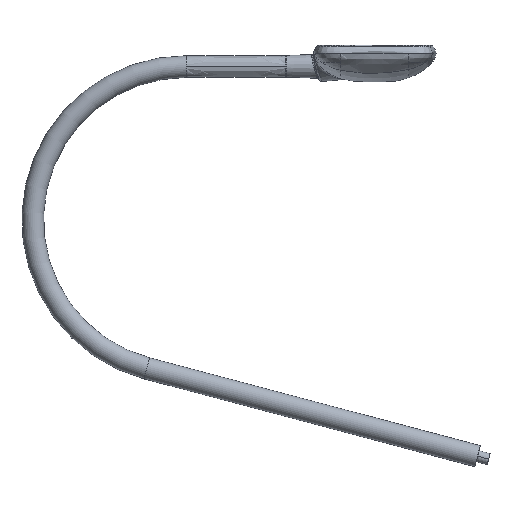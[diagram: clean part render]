
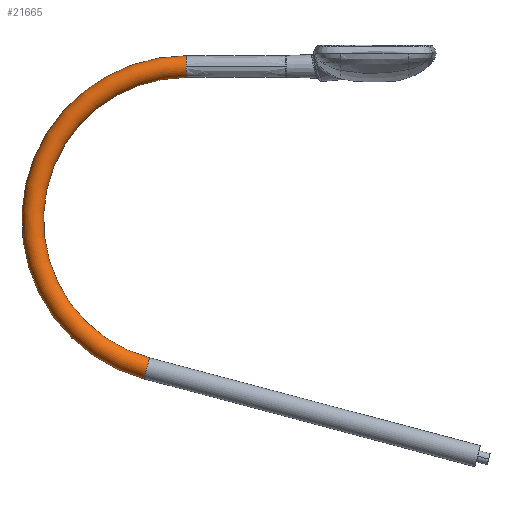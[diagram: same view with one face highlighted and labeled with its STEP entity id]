
A CAD part, left-side view. The second image highlights one B-rep face of the part: STEP entity #21665.
In plain terms, the highlighted toroidal (fillet/blend) face has major radius 134.5 mm and minor radius 9.5 mm.
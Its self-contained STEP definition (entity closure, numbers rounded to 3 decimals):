
#271 = AXIS2_PLACEMENT_3D ( 'NONE', #14982, #14985, #14987 ) ;
#371 = AXIS2_PLACEMENT_3D ( 'NONE', #15060, #15082, #15084 ) ;
#405 = AXIS2_PLACEMENT_3D ( 'NONE', #15008, #15012, #15014 ) ;
#446 = AXIS2_PLACEMENT_3D ( 'NONE', #15369, #15372, #15374 ) ;
#450 = AXIS2_PLACEMENT_3D ( 'NONE', #15010, #15034, #15036 ) ;
#476 = VERTEX_POINT ( 'NONE', #11382 ) ;
#484 = VERTEX_POINT ( 'NONE', #11368 ) ;
#488 = VERTEX_POINT ( 'NONE', #11372 ) ;
#5013 = CIRCLE ( 'NONE', #271, 125. ) ;
#5022 = CIRCLE ( 'NONE', #450, 9.5 ) ;
#5609 = CIRCLE ( 'NONE', #405, 144. ) ;
#6060 = CIRCLE ( 'NONE', #446, 9.5 ) ;
#6094 = CIRCLE ( 'NONE', #371, 9.5 ) ;
#11058 = VERTEX_POINT ( 'NONE', #11514 ) ;
#11368 = CARTESIAN_POINT ( 'NONE',  ( 264.49, 334.537, 9.5 ) ) ;
#11372 = CARTESIAN_POINT ( 'NONE',  ( 255.309, 332.098, 0. ) ) ;
#11382 = CARTESIAN_POINT ( 'NONE',  ( 273.672, 336.977, 0. ) ) ;
#11514 = CARTESIAN_POINT ( 'NONE',  ( 9.5, 300., 0. ) ) ;
#14982 = CARTESIAN_POINT ( 'NONE',  ( 134.5, 300., 0. ) ) ;
#14985 = DIRECTION ( 'NONE',  ( 0., 0., -1. ) ) ;
#14987 = DIRECTION ( 'NONE',  ( -1., 0., 0. ) ) ;
#15008 = CARTESIAN_POINT ( 'NONE',  ( 134.5, 300., 0. ) ) ;
#15010 = CARTESIAN_POINT ( 'NONE',  ( 0., 300., 0. ) ) ;
#15012 = DIRECTION ( 'NONE',  ( 0., 0., -1. ) ) ;
#15014 = DIRECTION ( 'NONE',  ( -1., 0., 0. ) ) ;
#15034 = DIRECTION ( 'NONE',  ( 0., 1., 0. ) ) ;
#15036 = DIRECTION ( 'NONE',  ( 0., 0., 1. ) ) ;
#15060 = CARTESIAN_POINT ( 'NONE',  ( 264.49, 334.537, 0. ) ) ;
#15082 = DIRECTION ( 'NONE',  ( 0.257, -0.966, 0. ) ) ;
#15084 = DIRECTION ( 'NONE',  ( 0., 0., 1. ) ) ;
#15369 = CARTESIAN_POINT ( 'NONE',  ( 264.49, 334.537, 0. ) ) ;
#15372 = DIRECTION ( 'NONE',  ( 0.257, -0.966, 0. ) ) ;
#15374 = DIRECTION ( 'NONE',  ( 0., 0., 1. ) ) ;
#17964 = ORIENTED_EDGE ( 'NONE', *, *, #23614, .F. ) ;
#17966 = ORIENTED_EDGE ( 'NONE', *, *, #23661, .F. ) ;
#17968 = ORIENTED_EDGE ( 'NONE', *, *, #23586, .F. ) ;
#17971 = ORIENTED_EDGE ( 'NONE', *, *, #23576, .T. ) ;
#18011 = ORIENTED_EDGE ( 'NONE', *, *, #23595, .T. ) ;
#19121 = TOROIDAL_SURFACE ( 'NONE', #24344, 134.5, 9.5 ) ;
#19489 = FACE_OUTER_BOUND ( 'NONE', #28122, .T. ) ;
#21431 = CARTESIAN_POINT ( 'NONE',  ( -9.5, 300., 0. ) ) ;
#21665 = ADVANCED_FACE ( 'NONE', ( #19489 ), #19121, .T. ) ;
#23576 = EDGE_CURVE ( 'NONE', #11058, #488, #5013, .T. ) ;
#23586 = EDGE_CURVE ( 'NONE', #24435, #476, #5609, .T. ) ;
#23595 = EDGE_CURVE ( 'NONE', #24435, #11058, #5022, .T. ) ;
#23614 = EDGE_CURVE ( 'NONE', #484, #488, #6094, .T. ) ;
#23661 = EDGE_CURVE ( 'NONE', #476, #484, #6060, .T. ) ;
#24344 = AXIS2_PLACEMENT_3D ( 'NONE', #28508, #28507, #28505 ) ;
#24435 = VERTEX_POINT ( 'NONE', #21431 ) ;
#28122 = EDGE_LOOP ( 'NONE', ( #17968, #18011, #17971, #17964, #17966 ) ) ;
#28505 = DIRECTION ( 'NONE',  ( -1., 0., 0. ) ) ;
#28507 = DIRECTION ( 'NONE',  ( 0., 0., -1. ) ) ;
#28508 = CARTESIAN_POINT ( 'NONE',  ( 134.5, 300., 0. ) ) ;
